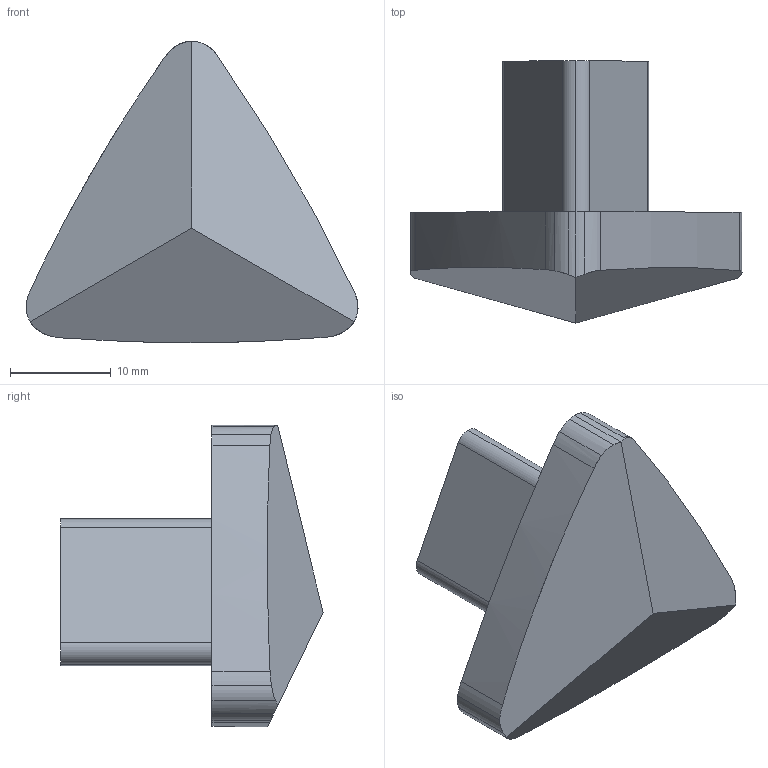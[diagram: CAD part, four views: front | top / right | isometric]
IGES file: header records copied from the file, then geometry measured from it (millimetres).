
Start section: Data from Parasolid IGES Translator 15.0.47, Copyright(c) 2006 Siemens P LM Software. All Rights Reserved.
Global section: file name: 9113425.igs; native system:  By UGS Corp.; preprocessor: XPlus GENERIC/IGES 3.0; author: Noname; organization: Noname; date: 20140122.135652; units: millimetre
Bounding box: 32.97 x 26.03 x 29.94 mm (x, y, z)
Surface area: 2673.2 mm2 (no closed solid volume)
Topology: 0 solids, 0 shells, 31 faces, 166 edges, 166 vertices
Faces by surface type: revolution 22, extrusion 9
